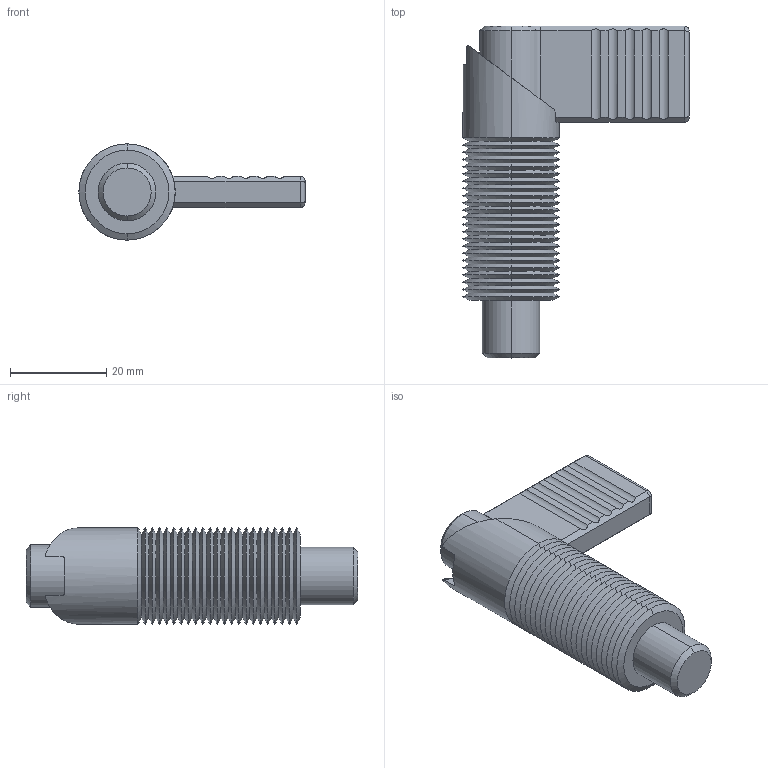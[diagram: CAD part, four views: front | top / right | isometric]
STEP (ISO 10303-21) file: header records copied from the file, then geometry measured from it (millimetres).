
FILE_DESCRIPTION (( 'STEP AP203' ), '1' );
FILE_NAME ('32501.W0332.step', '2016-02-10T17:21:38', ( 'User' ), ( '' ), 'SwSTEP 2.0', 'SolidWorks 2009', '' );
FILE_SCHEMA (( 'CONFIG_CONTROL_DESIGN' ));
Length unit declared in the file: millimetre
Products named in the file (3): Part1_32501.W0332; 32501.W0332; Part2_32501.W0332
Assembly tree (2 placements, depth 2):
  32501.W0332
    Part1_32501.W0332
    Part2_32501.W0332
Bounding box: 47 x 69 x 20 mm (x, y, z)
Volume: 16511.7 mm3; surface area: 11514.1 mm2
Topology: 2 solids, 2 shells, 171 faces, 376 edges, 212 vertices
Faces by surface type: cone 104, cylinder 40, plane 27
Entity records: 4965 total; most frequent: CARTESIAN_POINT 948, DIRECTION 826, ORIENTED_EDGE 752, EDGE_CURVE 376, AXIS2_PLACEMENT_3D 316, VERTEX_POINT 212, LINE 194, VECTOR 194
